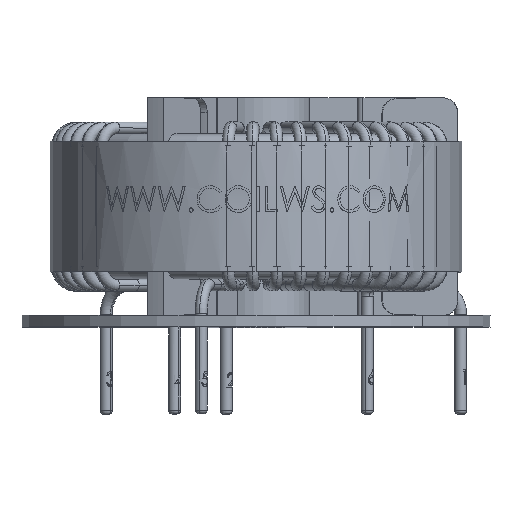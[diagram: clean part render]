
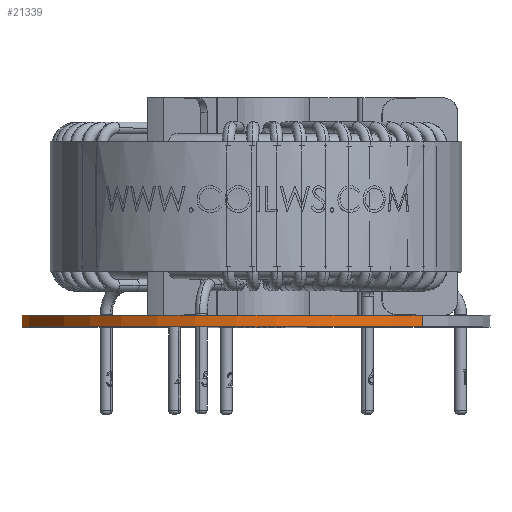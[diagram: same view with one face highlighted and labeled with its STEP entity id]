
A CAD part, top view. The second image highlights one B-rep face of the part: STEP entity #21339.
In plain terms, the highlighted cylindrical face has radius 32.385 mm (diameter 64.77 mm), a partial arc.
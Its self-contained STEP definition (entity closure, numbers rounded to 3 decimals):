
#2178 = ORIENTED_EDGE ( 'NONE', *, *, #50344, .T. ) ;
#2916 = EDGE_CURVE ( 'NONE', #34654, #21928, #39211, .T. ) ;
#9851 = VERTEX_POINT ( 'NONE', #45829 ) ;
#10891 = DIRECTION ( 'NONE',  ( 0., -1., 0. ) ) ;
#10928 = CIRCLE ( 'NONE', #39329, 32.385 ) ;
#11747 = AXIS2_PLACEMENT_3D ( 'NONE', #24930, #24011, #66957 ) ;
#12928 = VERTEX_POINT ( 'NONE', #46833 ) ;
#15959 = CARTESIAN_POINT ( 'NONE',  ( 0., 1.6, 32.385 ) ) ;
#16158 = CARTESIAN_POINT ( 'NONE',  ( 0., 1.6, 0. ) ) ;
#17072 = DIRECTION ( 'NONE',  ( 0., -1., 0. ) ) ;
#17903 = VECTOR ( 'NONE', #17072, 1000. ) ;
#21207 = VECTOR ( 'NONE', #57647, 1000. ) ;
#21339 = ADVANCED_FACE ( 'NONE', ( #63144 ), #64775, .T. ) ;
#21928 = VERTEX_POINT ( 'NONE', #15959 ) ;
#22351 = CARTESIAN_POINT ( 'NONE',  ( 0., 1.6, -32.385 ) ) ;
#22898 = CARTESIAN_POINT ( 'NONE',  ( 0., 0., 0. ) ) ;
#24011 = DIRECTION ( 'NONE',  ( 0., 1., 0. ) ) ;
#24930 = CARTESIAN_POINT ( 'NONE',  ( 0., 1.6, 0. ) ) ;
#28425 = DIRECTION ( 'NONE',  ( 0., 1., 0. ) ) ;
#31197 = LINE ( 'NONE', #42130, #21207 ) ;
#32120 = DIRECTION ( 'NONE',  ( 0., 0., -1. ) ) ;
#33631 = LINE ( 'NONE', #22351, #17903 ) ;
#34654 = VERTEX_POINT ( 'NONE', #52321 ) ;
#35266 = EDGE_CURVE ( 'NONE', #21928, #9851, #31197, .T. ) ;
#38613 = DIRECTION ( 'NONE',  ( 0., 0., 1. ) ) ;
#39211 = CIRCLE ( 'NONE', #11747, 32.385 ) ;
#39329 = AXIS2_PLACEMENT_3D ( 'NONE', #22898, #28425, #38613 ) ;
#41802 = ORIENTED_EDGE ( 'NONE', *, *, #35266, .F. ) ;
#42130 = CARTESIAN_POINT ( 'NONE',  ( 0., 1.6, 32.385 ) ) ;
#45235 = EDGE_LOOP ( 'NONE', ( #41802, #59704, #45582, #2178 ) ) ;
#45582 = ORIENTED_EDGE ( 'NONE', *, *, #56007, .T. ) ;
#45829 = CARTESIAN_POINT ( 'NONE',  ( 0., 0., 32.385 ) ) ;
#46833 = CARTESIAN_POINT ( 'NONE',  ( 0., 0., -32.385 ) ) ;
#50344 = EDGE_CURVE ( 'NONE', #12928, #9851, #10928, .T. ) ;
#52321 = CARTESIAN_POINT ( 'NONE',  ( 0., 1.6, -32.385 ) ) ;
#56007 = EDGE_CURVE ( 'NONE', #34654, #12928, #33631, .T. ) ;
#57647 = DIRECTION ( 'NONE',  ( 0., -1., 0. ) ) ;
#59704 = ORIENTED_EDGE ( 'NONE', *, *, #2916, .F. ) ;
#63144 = FACE_OUTER_BOUND ( 'NONE', #45235, .T. ) ;
#64775 = CYLINDRICAL_SURFACE ( 'NONE', #67126, 32.385 ) ;
#66957 = DIRECTION ( 'NONE',  ( 0., 0., 1. ) ) ;
#67126 = AXIS2_PLACEMENT_3D ( 'NONE', #16158, #10891, #32120 ) ;
